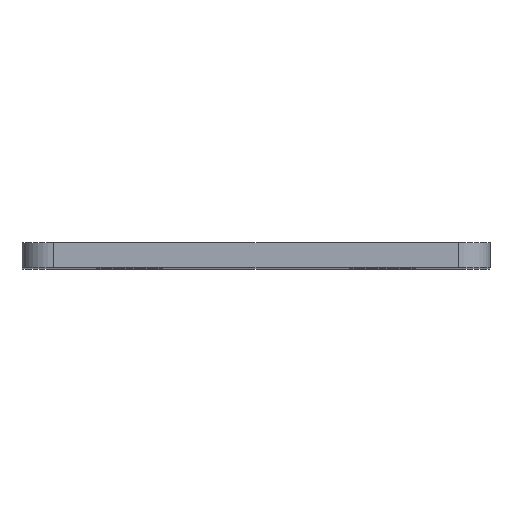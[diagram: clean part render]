
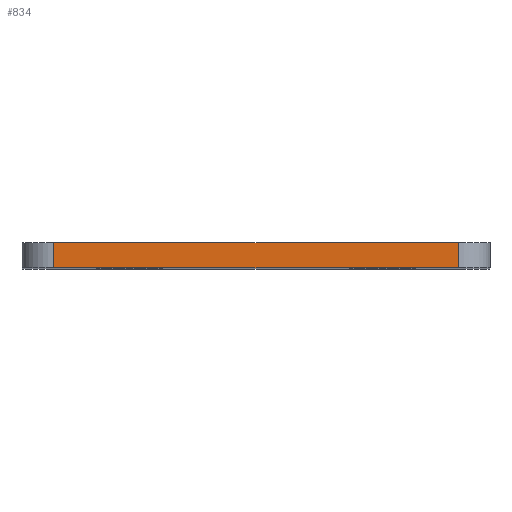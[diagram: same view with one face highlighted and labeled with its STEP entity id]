
A CAD part, top view. The second image highlights one B-rep face of the part: STEP entity #834.
In plain terms, the highlighted planar face has unit normal (0, 0, 1).
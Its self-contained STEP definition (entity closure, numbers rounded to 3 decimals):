
#9 = DIRECTION ( 'NONE',  ( 0., 0., 1. ) ) ;
#26 = VERTEX_POINT ( 'NONE', #863 ) ;
#81 = ORIENTED_EDGE ( 'NONE', *, *, #418, .T. ) ;
#86 = LINE ( 'NONE', #329, #348 ) ;
#114 = EDGE_CURVE ( 'NONE', #855, #26, #784, .T. ) ;
#129 = VECTOR ( 'NONE', #567, 1000. ) ;
#166 = EDGE_LOOP ( 'NONE', ( #761, #474, #626, #81 ) ) ;
#210 = CARTESIAN_POINT ( 'NONE',  ( -18.5, 0., 68.5 ) ) ;
#215 = VERTEX_POINT ( 'NONE', #417 ) ;
#296 = DIRECTION ( 'NONE',  ( 1., 0., 0. ) ) ;
#305 = VERTEX_POINT ( 'NONE', #938 ) ;
#329 = CARTESIAN_POINT ( 'NONE',  ( 16., 0., 68.5 ) ) ;
#348 = VECTOR ( 'NONE', #404, 1000. ) ;
#354 = VECTOR ( 'NONE', #506, 1000. ) ;
#361 = PLANE ( 'NONE',  #827 ) ;
#404 = DIRECTION ( 'NONE',  ( 0., 1., 0. ) ) ;
#417 = CARTESIAN_POINT ( 'NONE',  ( -16., 2., 68.5 ) ) ;
#418 = EDGE_CURVE ( 'NONE', #215, #855, #939, .T. ) ;
#474 = ORIENTED_EDGE ( 'NONE', *, *, #887, .T. ) ;
#485 = CARTESIAN_POINT ( 'NONE',  ( -16., 0., 68.5 ) ) ;
#500 = LINE ( 'NONE', #680, #653 ) ;
#506 = DIRECTION ( 'NONE',  ( 1., 0., 0. ) ) ;
#558 = EDGE_CURVE ( 'NONE', #215, #305, #500, .T. ) ;
#567 = DIRECTION ( 'NONE',  ( 0., -1., 0. ) ) ;
#568 = CARTESIAN_POINT ( 'NONE',  ( -16., 0., 68.5 ) ) ;
#626 = ORIENTED_EDGE ( 'NONE', *, *, #558, .F. ) ;
#653 = VECTOR ( 'NONE', #779, 1000. ) ;
#680 = CARTESIAN_POINT ( 'NONE',  ( -18.5, 2., 68.5 ) ) ;
#761 = ORIENTED_EDGE ( 'NONE', *, *, #114, .T. ) ;
#779 = DIRECTION ( 'NONE',  ( 1., 0., 0. ) ) ;
#784 = LINE ( 'NONE', #960, #354 ) ;
#819 = FACE_OUTER_BOUND ( 'NONE', #166, .T. ) ;
#827 = AXIS2_PLACEMENT_3D ( 'NONE', #210, #9, #296 ) ;
#834 = ADVANCED_FACE ( 'NONE', ( #819 ), #361, .T. ) ;
#855 = VERTEX_POINT ( 'NONE', #568 ) ;
#863 = CARTESIAN_POINT ( 'NONE',  ( 16., 0., 68.5 ) ) ;
#887 = EDGE_CURVE ( 'NONE', #26, #305, #86, .T. ) ;
#938 = CARTESIAN_POINT ( 'NONE',  ( 16., 2., 68.5 ) ) ;
#939 = LINE ( 'NONE', #485, #129 ) ;
#960 = CARTESIAN_POINT ( 'NONE',  ( -18.5, 0., 68.5 ) ) ;
